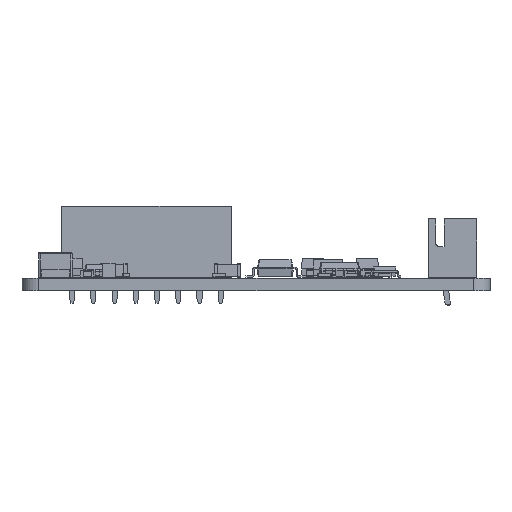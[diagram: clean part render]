
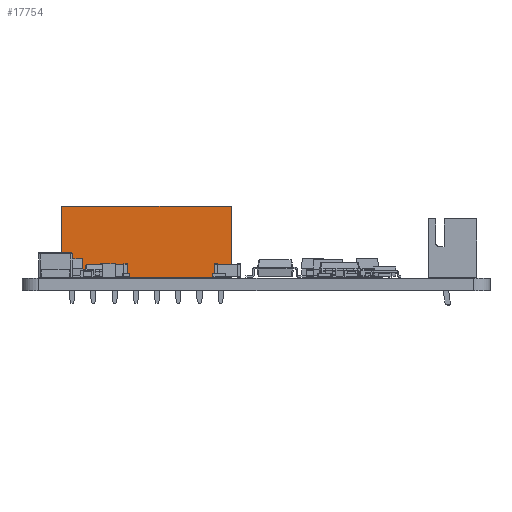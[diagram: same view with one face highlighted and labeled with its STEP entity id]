
A CAD part, left-side view. The second image highlights one B-rep face of the part: STEP entity #17754.
In plain terms, the highlighted planar face has unit normal (-1, 0, 0).
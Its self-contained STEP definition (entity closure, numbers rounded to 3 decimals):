
#15931 = VERTEX_POINT('',#15932);
#15932 = CARTESIAN_POINT('',(-3.81,-19.05,0.));
#15940 = EDGE_CURVE('',#15931,#15941,#15943,.T.);
#15941 = VERTEX_POINT('',#15942);
#15942 = CARTESIAN_POINT('',(-3.81,-19.05,8.5));
#15943 = LINE('',#15944,#15945);
#15944 = CARTESIAN_POINT('',(-3.81,-19.05,0.));
#15945 = VECTOR('',#15946,1.);
#15946 = DIRECTION('',(0.,0.,1.));
#16003 = VERTEX_POINT('',#16004);
#16004 = CARTESIAN_POINT('',(-3.81,1.27,8.5));
#16010 = EDGE_CURVE('',#16011,#16003,#16013,.T.);
#16011 = VERTEX_POINT('',#16012);
#16012 = CARTESIAN_POINT('',(-3.81,1.27,0.));
#16013 = LINE('',#16014,#16015);
#16014 = CARTESIAN_POINT('',(-3.81,1.27,0.));
#16015 = VECTOR('',#16016,1.);
#16016 = DIRECTION('',(0.,0.,1.));
#16075 = EDGE_CURVE('',#16003,#15941,#16076,.T.);
#16076 = LINE('',#16077,#16078);
#16077 = CARTESIAN_POINT('',(-3.81,1.27,8.5));
#16078 = VECTOR('',#16079,1.);
#16079 = DIRECTION('',(0.,-1.,0.));
#16642 = EDGE_CURVE('',#16011,#15931,#16643,.T.);
#16643 = LINE('',#16644,#16645);
#16644 = CARTESIAN_POINT('',(-3.81,1.27,0.));
#16645 = VECTOR('',#16646,1.);
#16646 = DIRECTION('',(0.,-1.,0.));
#17754 = ADVANCED_FACE('',(#17755),#17761,.F.);
#17755 = FACE_BOUND('',#17756,.F.);
#17756 = EDGE_LOOP('',(#17757,#17758,#17759,#17760));
#17757 = ORIENTED_EDGE('',*,*,#16010,.T.);
#17758 = ORIENTED_EDGE('',*,*,#16075,.T.);
#17759 = ORIENTED_EDGE('',*,*,#15940,.F.);
#17760 = ORIENTED_EDGE('',*,*,#16642,.F.);
#17761 = PLANE('',#17762);
#17762 = AXIS2_PLACEMENT_3D('',#17763,#17764,#17765);
#17763 = CARTESIAN_POINT('',(-3.81,1.27,0.));
#17764 = DIRECTION('',(1.,0.,0.));
#17765 = DIRECTION('',(0.,-1.,0.));
